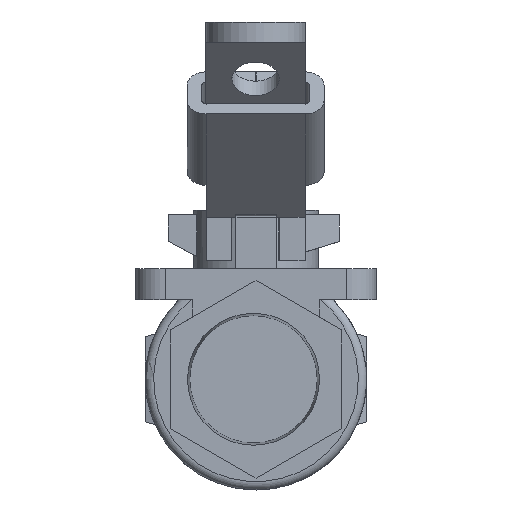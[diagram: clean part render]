
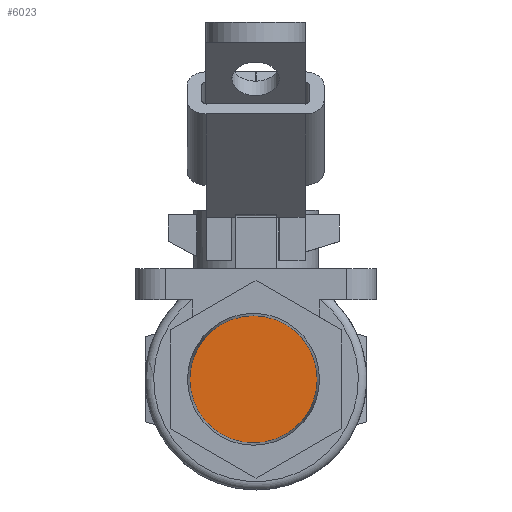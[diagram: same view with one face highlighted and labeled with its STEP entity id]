
A CAD part, left-side view. The second image highlights one B-rep face of the part: STEP entity #6023.
In plain terms, the highlighted free-form (B-spline) face has degree [1, 1] with [2, 2] control points.
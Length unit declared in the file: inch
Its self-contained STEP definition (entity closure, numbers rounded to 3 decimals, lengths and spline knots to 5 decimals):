
#6007=CARTESIAN_POINT('',(0.5533,0.47746,0.47746));
#6008=CARTESIAN_POINT('',(0.5533,-0.47746,0.47746));
#6009=CARTESIAN_POINT('',(0.5533,0.47746,-0.47746));
#6010=CARTESIAN_POINT('',(0.5533,-0.47746,-0.47746));
#6011=B_SPLINE_SURFACE_WITH_KNOTS('',1,1,((#6007,#6009),(#6008,#6010)),.UNSPECIFIED.,.F.,.F.,.U.,(2,2),(2,2),(0.0,0.95492),(0.0,0.95492),.UNSPECIFIED.);
#6012=CARTESIAN_POINT('',(0.5533,0.47746,0.0));
#6013=VERTEX_POINT('',#6012);
#6014=CARTESIAN_POINT('',(0.5533,0.0,0.0));
#6015=DIRECTION('',(1.0,0.0,0.0));
#6016=DIRECTION('',(0.0,1.0,0.0));
#6017=AXIS2_PLACEMENT_3D('',#6014,#6015,#6016);
#6018=CIRCLE('',#6017,0.47746);
#6019=EDGE_CURVE('',#6013,#6013,#6018,.T.);
#6020=ORIENTED_EDGE('',*,*,#6019,.F.);
#6021=EDGE_LOOP('',(#6020));
#6022=FACE_OUTER_BOUND('',#6021,.T.);
#6023=ADVANCED_FACE('',(#6022),#6011,.F.);
